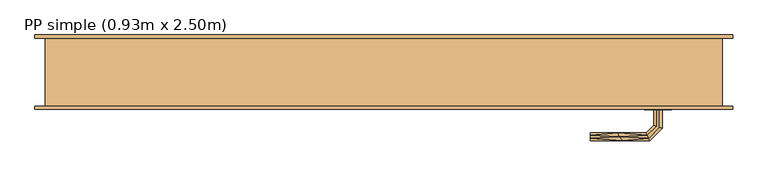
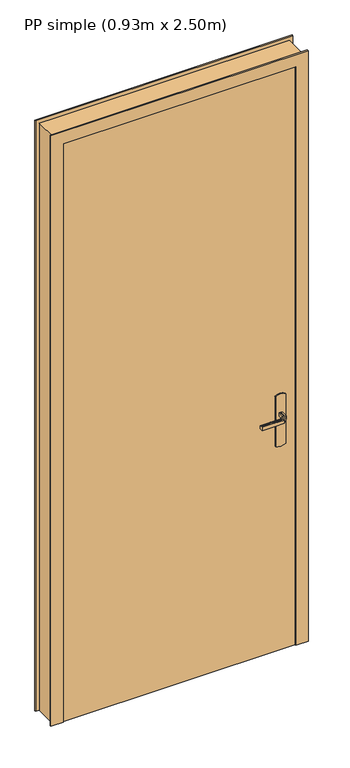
"""IFC4 building model written with IfcOpenShell, lengths in millimetres: door geometry, PP simple (0.93m x 2.50m)."""

from ifc_helpers import new_model, si_unit, frame, origin, origin_with_axes, place, context, project, spatial, polyline, outline, extrude, faceted_brep, source, transform, mapped, element, save


def pp_simple_0_93m_x_2_50m_70fa328e(model_context):
    return source(origin(), model_context, "Body", "SolidModel", [
        faceted_brep([(972.9747013, -5.0, 1007.7804408), (977.0252987, -5.0, 1007.7804408), (981.0, -5.0, 1007.0), (981.0, -5.0, 993.0), (977.0252987, -5.0, 992.2195592), (972.9747013, -5.0, 992.2195592), (969.0, -5.0, 993.0), (969.0, -5.0, 1007.0), (977.0252987, -31.0045755, 1007.7804408), (981.0, -32.6509507, 1007.0), (972.9747013, -29.3267632, 1007.7804408), (959.2986025, -43.002862, 1007.7804408), (960.9764148, -47.0534593, 1007.7804408), (969.0, -27.680388, 1007.0), (969.0, -27.680388, 993.0), (972.9747013, -29.3267632, 992.2195592), (977.0252987, -31.0045755, 992.2195592), (960.9764148, -47.0534593, 992.2195592), (959.2986025, -43.002862, 992.2195592), (981.0, -32.6509507, 993.0), (962.62279, -51.0281607, 1007.0), (957.6522273, -39.0281607, 1007.0), (957.6522273, -39.0281607, 993.0), (962.62279, -51.0281607, 993.0), (874.9813594, -51.0281607, 1007.0), (874.9813594, -47.0534593, 1007.7804408), (874.9813594, -43.002862, 1007.7804408), (874.9813594, -39.0281607, 1007.0), (874.9813594, -39.0281607, 993.0), (874.9813594, -43.002862, 992.2195592), (874.9813594, -47.0534593, 992.2195592), (874.9813594, -51.0281607, 993.0), (917.1399809, -45.0281607, 1007.8786868), (922.6923028, -51.0281607, 1007.0), (916.3167933, -39.0281607, 1007.0), (916.3167933, -39.0281607, 993.0), (917.1399811, -45.0281608, 992.1213132), (922.6923104, -51.0281607, 993.0)], [[[0, 1, 2, 3, 4, 5, 6, 7]], [[2, 1, 8, 9]], [[1, 0, 10, 11, 12, 8]], [[0, 7, 13, 10]], [[14, 13, 7, 6]], [[5, 15, 14, 6]], [[5, 4, 16, 17, 18, 15]], [[3, 19, 16, 4]], [[9, 19, 3, 2]], [[9, 8, 12, 20]], [[10, 13, 21, 11]], [[22, 21, 13, 14]], [[14, 15, 18, 22]], [[16, 19, 23, 17]], [[20, 23, 19, 9]], [[24, 25, 26, 27, 28, 29, 30, 31]], [[32, 25, 33]], [[33, 25, 24]], [[33, 20, 12]], [[11, 34, 32]], [[34, 11, 21]], [[27, 26, 34]], [[32, 26, 25]], [[32, 34, 26]], [[32, 33, 12]], [[11, 32, 12]], [[21, 22, 35, 28, 27, 34]], [[36, 29, 35]], [[30, 36, 37]], [[18, 35, 22]], [[29, 28, 35]], [[30, 37, 31]], [[37, 17, 23]], [[36, 17, 37]], [[36, 18, 17]], [[36, 35, 18]], [[29, 36, 30]], [[23, 20, 33, 24, 31, 37]]]),
        faceted_brep([(1070.0, 100.0, 0.0), (1070.0, 0.0, 0.0), (1085.0, 0.0, 0.0), (1085.0, -5.0, 0.0), (1035.0, -5.0, 0.0), (1035.0, 40.0, 0.0), (1020.0, 40.0, 0.0), (1020.0, 105.0, 0.0), (1085.0, 105.0, 0.0), (1085.0, 100.0, 0.0), (1070.0, 100.0, 2485.0), (1070.0, 0.0, 2485.0), (1085.0, 100.0, 2500.0), (55.0, 100.0, 2500.0), (55.0, 100.0, 0.0), (70.0, 100.0, 0.0), (70.0, 100.0, 2485.0), (1020.0, 40.0, 2435.0), (1020.0, 105.0, 2435.0), (1035.0, 40.0, 2450.0), (105.0, 40.0, 2450.0), (105.0, 40.0, 0.0), (120.0, 40.0, 0.0), (120.0, 40.0, 2435.0), (70.0, 0.0, 0.0), (70.0, 0.0, 2485.0), (55.0, 105.0, 0.0), (120.0, 105.0, 0.0), (105.0, -5.0, 0.0), (55.0, -5.0, 0.0), (55.0, 0.0, 0.0), (120.0, 105.0, 2435.0), (1035.0, -5.0, 2450.0), (1085.0, -5.0, 2500.0), (55.0, -5.0, 2500.0), (105.0, -5.0, 2450.0), (1085.0, 0.0, 2500.0), (55.0, 0.0, 2500.0), (1085.0, 105.0, 2500.0), (55.0, 105.0, 2500.0)], [[[0, 1, 2, 3, 4, 5, 6, 7, 8, 9]], [[0, 10, 11, 1]], [[9, 12, 13, 14, 15, 16, 10, 0]], [[7, 6, 17, 18]], [[5, 19, 20, 21, 22, 23, 17, 6]], [[16, 15, 24, 25]], [[15, 14, 26, 27, 22, 21, 28, 29, 30, 24]], [[23, 22, 27, 31]], [[10, 16, 25, 11]], [[17, 23, 31, 18]], [[5, 4, 32, 19]], [[3, 33, 34, 29, 28, 35, 32, 4]], [[2, 36, 33, 3]], [[1, 11, 25, 24, 30, 37, 36, 2]], [[8, 38, 12, 9]], [[7, 18, 31, 27, 26, 39, 38, 8]], [[35, 28, 21, 20]], [[37, 30, 29, 34]], [[39, 26, 14, 13]], [[32, 35, 20, 19]], [[36, 37, 34, 33]], [[38, 39, 13, 12]]]),
        extrude(outline(polyline([(870.0, 995.0), (1080.0, 995.0), (1083.9960169, 985.3527618), (1085.3589838, 975.0), (1083.9960169, 964.6472382), (1080.0, 955.0), (870.0, 955.0), (866.0039831, 964.6472382), (864.6410162, 975.0), (866.0039831, 985.3527618), (870.0, 995.0)])), frame((0.0, -5.0, 0.0), z_axis=(0.0, 1.0, 0.0), x_axis=(0.0, 0.0, 1.0)), (0.0, 0.0, 1.0), 5.0),
        faceted_brep([(972.9747013, 45.0, 992.2195592), (977.0252987, 45.0, 992.2195592), (981.0, 45.0, 993.0), (981.0, 45.0, 1007.0), (977.0252987, 45.0, 1007.7804408), (972.9747013, 45.0, 1007.7804408), (969.0, 45.0, 1007.0), (969.0, 45.0, 993.0), (969.0, 67.4852045, 1007.0), (969.0, 67.4852045, 993.0), (972.9747013, 69.1315797, 1007.7804408), (977.0252987, 70.8093921, 1007.7804408), (960.8389062, 86.9957845, 1007.7804408), (959.1610938, 82.9451872, 1007.7804408), (981.0, 72.4557673, 1007.0), (981.0, 72.4557673, 993.0), (977.0252987, 70.8093921, 992.2195592), (972.9747013, 69.1315797, 992.2195592), (959.1610938, 82.9451872, 992.2195592), (960.8389062, 86.9957845, 992.2195592), (957.5147186, 78.9704859, 1007.0), (957.5147186, 78.9704859, 993.0), (962.4852814, 90.9704859, 1007.0), (962.4852814, 90.9704859, 993.0), (874.9542163, 82.9451872, 1007.7804408), (874.9542163, 86.9957845, 1007.7804408), (874.9542163, 90.9704859, 1007.0), (874.9542163, 90.9704859, 993.0), (874.9542163, 86.9957845, 992.2195592), (874.9542163, 82.9451872, 992.2195592), (874.9542163, 78.9704859, 993.0), (874.9542163, 78.9704859, 1007.0), (916.2344675, 78.9704859, 1007.0), (916.2344794, 78.9704859, 993.0), (917.0576551, 84.9704859, 1007.8786868), (922.5547942, 90.9704859, 1007.0), (922.5547957, 90.9704859, 993.0), (917.0576549, 84.9704858, 992.1213132)], [[[0, 1, 2, 3, 4, 5, 6, 7]], [[8, 9, 7, 6]], [[5, 10, 8, 6]], [[5, 4, 11, 12, 13, 10]], [[3, 14, 11, 4]], [[14, 3, 2, 15]], [[2, 1, 16, 15]], [[1, 0, 17, 18, 19, 16]], [[0, 7, 9, 17]], [[20, 21, 9, 8]], [[8, 10, 13, 20]], [[14, 22, 12, 11]], [[23, 22, 14, 15]], [[15, 16, 19, 23]], [[17, 9, 21, 18]], [[24, 25, 26, 27, 28, 29, 30, 31]], [[21, 20, 32, 31, 30, 33]], [[34, 24, 32]], [[25, 34, 35]], [[13, 32, 20]], [[24, 31, 32]], [[25, 35, 26]], [[35, 12, 22]], [[34, 12, 35]], [[34, 13, 12]], [[34, 32, 13]], [[24, 34, 25]], [[22, 23, 36, 27, 26, 35]], [[37, 28, 36]], [[36, 28, 27]], [[36, 23, 19]], [[18, 33, 37]], [[33, 18, 21]], [[30, 29, 33]], [[37, 29, 28]], [[37, 33, 29]], [[37, 36, 19]], [[18, 37, 19]]]),
        extrude(outline(polyline([(1035.0, 40.0), (1035.0, 0.0), (105.0, 0.0), (105.0, 40.0), (1035.0, 40.0)])), origin_with_axes(), (0.0, 0.0, 1.0), 2450.0),
        extrude(outline(polyline([(870.0, 995.0), (1080.0, 995.0), (1083.9960169, 985.3527618), (1085.3589838, 975.0), (1083.9960169, 964.6472382), (1080.0, 955.0), (870.0, 955.0), (866.0039831, 964.6472382), (864.6410162, 975.0), (866.0039831, 985.3527618), (870.0, 995.0)])), frame((0.0, 40.0, 0.0), z_axis=(0.0, 1.0, 0.0), x_axis=(0.0, 0.0, 1.0)), (0.0, 0.0, 1.0), 5.0),
    ])


if __name__ == "__main__":
    model = new_model("IFC4")
    model_context = context("Model", 3, world=origin())
    ifc_project = project(units=[si_unit("LENGTHUNIT", "METRE", prefix="MILLI")], contexts=[model_context])
    site = spatial("IfcSite", under=ifc_project)
    building = spatial("IfcBuilding", under=site)
    placement = place(None, origin())
    pp_simple_0_93m_x_2_50m_shape = pp_simple_0_93m_x_2_50m_70fa328e(model_context)
    element("IfcDoor", 1, ObjectType="PP simple (0.93m x 2.50m)", at=placement, inside=building, context=model_context, shape_type="MappedRepresentation", body=[
        mapped(pp_simple_0_93m_x_2_50m_shape, transform((0.0, 0.0, 0.0), x_axis=(1.0, 0.0, 0.0), y_axis=(0.0, 1.0, 0.0), z_axis=(0.0, 0.0, 1.0))),
    ])
    save(model, "model.ifc")
